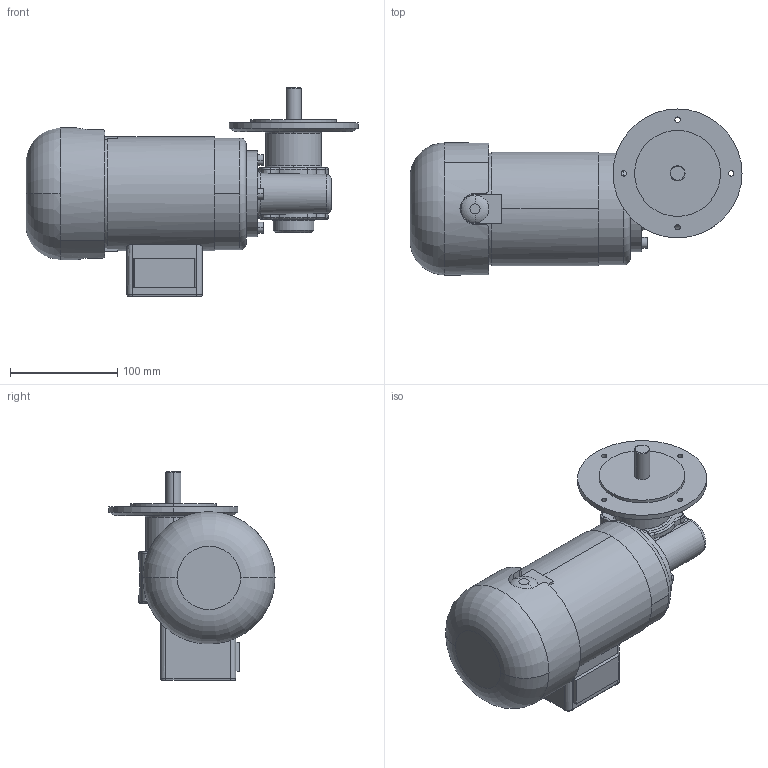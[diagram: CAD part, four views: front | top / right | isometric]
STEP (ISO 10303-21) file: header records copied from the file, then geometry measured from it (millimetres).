
FILE_DESCRIPTION(('OneSpaceDesigner STEP Export'),'2;1');
FILE_NAME('KGOG61-62_GF131_H.stp','2008-08-18T 8:22:12',(''),(''),'OneSpace Designer STEP processor (Jan. 2003) for AP214(CD)(Solid Model)','OneSpace Designer 12.01D 09-Jul-2004 (C) CoCreate Software GmbH','');
FILE_SCHEMA(('AUTOMOTIVE_DESIGN_CC2 {1 2 10303 214 -1 1 5 1}'));
Length unit declared in the file: millimetre
Products named in the file (2): KGOG61-62_GF131_H
Assembly tree (1 placements, depth 2):
  KGOG61-62_GF131_H
    KGOG61-62_GF131_H
Bounding box: 309 x 154.5 x 194.5 mm (x, y, z)
Volume: 2650074.5 mm3; surface area: 155862 mm2
Topology: 1 solids, 1 shells, 208 faces, 525 edges, 332 vertices
Faces by surface type: cylinder 54, plane 52, bspline 47, extrusion 29, torus 14, cone 12
Entity records: 18046 total; most frequent: CARTESIAN_POINT 13940, ORIENTED_EDGE 1050, EDGE_CURVE 525, DIRECTION 512, VERTEX_POINT 332, EDGE_LOOP 229, FACE_OUTER_BOUND 208, ADVANCED_FACE 208
